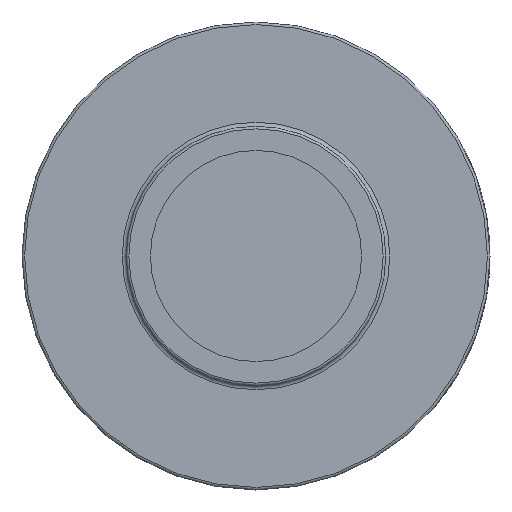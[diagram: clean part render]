
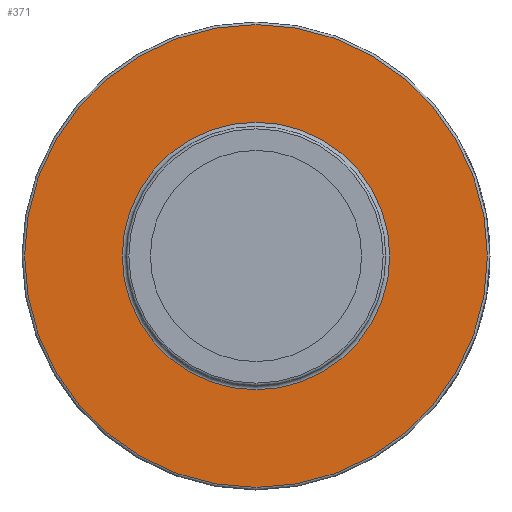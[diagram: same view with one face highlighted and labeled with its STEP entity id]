
A CAD part, left-side view. The second image highlights one B-rep face of the part: STEP entity #371.
In plain terms, the highlighted planar face has unit normal (-1, 0, 0).
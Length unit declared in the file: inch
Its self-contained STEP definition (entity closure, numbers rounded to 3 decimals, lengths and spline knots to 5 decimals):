
#371 = ADVANCED_FACE( '', ( #893, #894 ), #895, .T. );
#893 = FACE_OUTER_BOUND( '', #2092, .T. );
#894 = FACE_BOUND( '', #2093, .T. );
#895 = PLANE( '', #2094 );
#2092 = EDGE_LOOP( '', ( #3542 ) );
#2093 = EDGE_LOOP( '', ( #3543 ) );
#2094 = AXIS2_PLACEMENT_3D( '', #3544, #3545, #3546 );
#3542 = ORIENTED_EDGE( '', *, *, #5161, .T. );
#3543 = ORIENTED_EDGE( '', *, *, #5080, .F. );
#3544 = CARTESIAN_POINT( '', ( 1.028, 0., 1.03625 ) );
#3545 = DIRECTION( '', ( -1., 0., 0. ) );
#3546 = DIRECTION( '', ( 0., 0., 1. ) );
#5080 = EDGE_CURVE( '', #5995, #5995, #5996, .T. );
#5161 = EDGE_CURVE( '', #6125, #6125, #6126, .T. );
#5995 = VERTEX_POINT( '', #7650 );
#5996 = CIRCLE( '', #7651, 1.03625 );
#6125 = VERTEX_POINT( '', #8033 );
#6126 = CIRCLE( '', #8034, 1.7925 );
#7650 = CARTESIAN_POINT( '', ( 1.028, 0., 1.03625 ) );
#7651 = AXIS2_PLACEMENT_3D( '', #9266, #9267, #9268 );
#8033 = CARTESIAN_POINT( '', ( 1.028, 0., 1.7925 ) );
#8034 = AXIS2_PLACEMENT_3D( '', #9281, #9282, #9283 );
#9266 = CARTESIAN_POINT( '', ( 1.028, 0., 0. ) );
#9267 = DIRECTION( '', ( -1., 0., 0. ) );
#9268 = DIRECTION( '', ( 0., 0., 1. ) );
#9281 = CARTESIAN_POINT( '', ( 1.028, 0., 0. ) );
#9282 = DIRECTION( '', ( -1., 0., 0. ) );
#9283 = DIRECTION( '', ( 0., 0., 1. ) );
